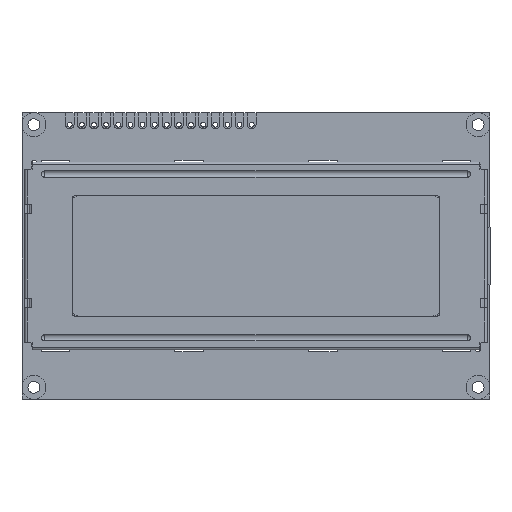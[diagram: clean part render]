
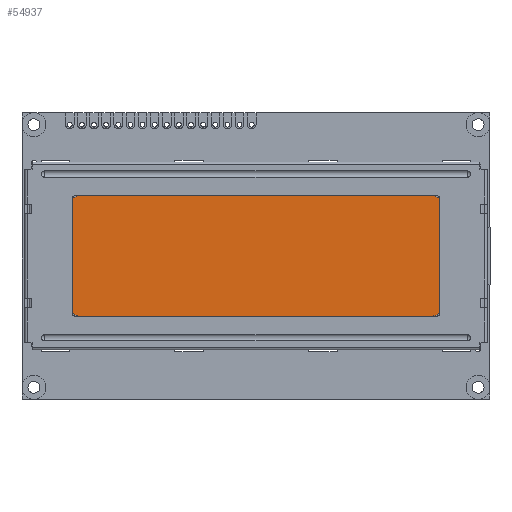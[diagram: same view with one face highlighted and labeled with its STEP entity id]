
A CAD part, top view. The second image highlights one B-rep face of the part: STEP entity #54937.
In plain terms, the highlighted planar face has unit normal (0, 0, 1).
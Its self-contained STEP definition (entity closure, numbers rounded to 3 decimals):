
#520=CIRCLE('',#61268,2.);
#521=CIRCLE('',#61269,2.);
#522=CIRCLE('',#61270,2.);
#523=CIRCLE('',#61271,2.);
#14006=ORIENTED_EDGE('',*,*,#22036,.F.);
#14007=ORIENTED_EDGE('',*,*,#22037,.F.);
#14008=ORIENTED_EDGE('',*,*,#22038,.F.);
#14009=ORIENTED_EDGE('',*,*,#22039,.F.);
#14010=ORIENTED_EDGE('',*,*,#22040,.F.);
#14011=ORIENTED_EDGE('',*,*,#22041,.F.);
#14012=ORIENTED_EDGE('',*,*,#22042,.F.);
#14013=ORIENTED_EDGE('',*,*,#22043,.F.);
#22036=EDGE_CURVE('',#27188,#27189,#520,.T.);
#22037=EDGE_CURVE('',#27190,#27188,#34046,.T.);
#22038=EDGE_CURVE('',#27191,#27190,#521,.T.);
#22039=EDGE_CURVE('',#27192,#27191,#34047,.T.);
#22040=EDGE_CURVE('',#27193,#27192,#522,.T.);
#22041=EDGE_CURVE('',#27194,#27193,#34048,.T.);
#22042=EDGE_CURVE('',#27195,#27194,#523,.T.);
#22043=EDGE_CURVE('',#27189,#27195,#34049,.T.);
#27188=VERTEX_POINT('',#90166);
#27189=VERTEX_POINT('',#90167);
#27190=VERTEX_POINT('',#90169);
#27191=VERTEX_POINT('',#90171);
#27192=VERTEX_POINT('',#90173);
#27193=VERTEX_POINT('',#90175);
#27194=VERTEX_POINT('',#90177);
#27195=VERTEX_POINT('',#90179);
#34046=LINE('',#90168,#40972);
#34047=LINE('',#90172,#40973);
#34048=LINE('',#90176,#40974);
#34049=LINE('',#90180,#40975);
#40972=VECTOR('',#74679,1000.);
#40973=VECTOR('',#74682,1000.);
#40974=VECTOR('',#74685,1000.);
#40975=VECTOR('',#74688,1000.);
#44892=EDGE_LOOP('',(#14006,#14007,#14008,#14009,#14010,#14011,#14012,#14013));
#48558=FACE_BOUND('',#44892,.T.);
#51739=PLANE('',#61267);
#54937=ADVANCED_FACE('',(#48558),#51739,.F.);
#61267=AXIS2_PLACEMENT_3D('',#90164,#74675,#74676);
#61268=AXIS2_PLACEMENT_3D('',#90165,#74677,#74678);
#61269=AXIS2_PLACEMENT_3D('',#90170,#74680,#74681);
#61270=AXIS2_PLACEMENT_3D('',#90174,#74683,#74684);
#61271=AXIS2_PLACEMENT_3D('',#90178,#74686,#74687);
#74675=DIRECTION('',(0.,0.,-1.));
#74676=DIRECTION('',(0.,1.,0.));
#74677=DIRECTION('',(0.,0.,-1.));
#74678=DIRECTION('',(1.,0.,0.));
#74679=DIRECTION('',(-1.,0.,0.));
#74680=DIRECTION('',(0.,0.,-1.));
#74681=DIRECTION('',(-1.,0.,0.));
#74682=DIRECTION('',(0.,-1.,0.));
#74683=DIRECTION('',(0.,0.,-1.));
#74684=DIRECTION('',(-1.,0.,0.));
#74685=DIRECTION('',(1.,0.,0.));
#74686=DIRECTION('',(0.,0.,-1.));
#74687=DIRECTION('',(1.,0.,0.));
#74688=DIRECTION('',(0.,1.,0.));
#90164=CARTESIAN_POINT('',(-36.927,-10.6,8.502));
#90165=CARTESIAN_POINT('',(-36.927,-10.6,8.502));
#90166=CARTESIAN_POINT('',(-36.927,-12.6,8.502));
#90167=CARTESIAN_POINT('',(-38.927,-10.6,8.502));
#90168=CARTESIAN_POINT('',(36.923,-12.6,8.502));
#90169=CARTESIAN_POINT('',(36.923,-12.6,8.502));
#90170=CARTESIAN_POINT('',(36.923,-10.6,8.502));
#90171=CARTESIAN_POINT('',(38.923,-10.6,8.502));
#90172=CARTESIAN_POINT('',(38.923,-10.6,8.502));
#90173=CARTESIAN_POINT('',(38.923,10.6,8.502));
#90174=CARTESIAN_POINT('',(36.923,10.6,8.502));
#90175=CARTESIAN_POINT('',(36.923,12.6,8.502));
#90176=CARTESIAN_POINT('',(36.923,12.6,8.502));
#90177=CARTESIAN_POINT('',(-36.927,12.6,8.502));
#90178=CARTESIAN_POINT('',(-36.927,10.6,8.502));
#90179=CARTESIAN_POINT('',(-38.927,10.6,8.502));
#90180=CARTESIAN_POINT('',(-38.927,-10.6,8.502));
